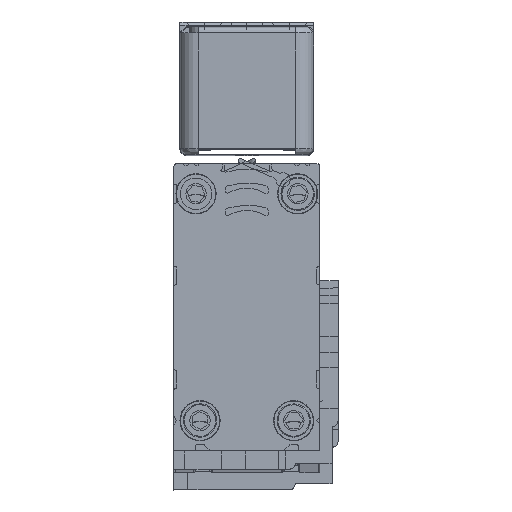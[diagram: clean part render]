
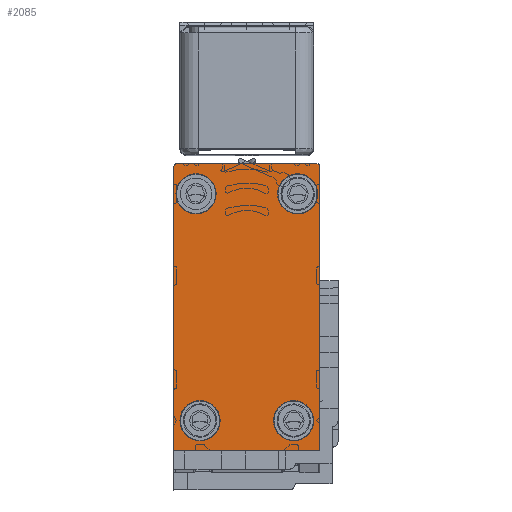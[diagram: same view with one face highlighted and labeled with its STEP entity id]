
A CAD part, top view. The second image highlights one B-rep face of the part: STEP entity #2085.
In plain terms, the highlighted planar face has unit normal (0, 0, 1).
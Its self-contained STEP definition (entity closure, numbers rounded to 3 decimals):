
#59 = CARTESIAN_POINT ( 'NONE',  ( -11.063, 21.401, 3185. ) ) ;
#231 = DIRECTION ( 'NONE',  ( -1., 0., 0. ) ) ;
#590 = LINE ( 'NONE', #10401, #5728 ) ;
#686 = ORIENTED_EDGE ( 'NONE', *, *, #11966, .T. ) ;
#855 = ORIENTED_EDGE ( 'NONE', *, *, #23147, .T. ) ;
#987 = ORIENTED_EDGE ( 'NONE', *, *, #26413, .T. ) ;
#1560 = AXIS2_PLACEMENT_3D ( 'NONE', #16345, #3266, #18507 ) ;
#1562 = LINE ( 'NONE', #21415, #18304 ) ;
#1752 = CARTESIAN_POINT ( 'NONE',  ( -0.967, 21.401, 3185. ) ) ;
#1890 = DIRECTION ( 'NONE',  ( 0., 1., 0. ) ) ;
#2016 = CARTESIAN_POINT ( 'NONE',  ( -18.014, -20.888, 3185. ) ) ;
#2085 = ADVANCED_FACE ( 'NONE', ( #9945, #21479, #22180, #10660, #4098 ), #2370, .T. ) ;
#2231 = ORIENTED_EDGE ( 'NONE', *, *, #15478, .T. ) ;
#2255 = DIRECTION ( 'NONE',  ( 0., 0., -1. ) ) ;
#2370 = PLANE ( 'NONE',  #15356 ) ;
#2633 = CIRCLE ( 'NONE', #15399, 3.302 ) ;
#2947 = VERTEX_POINT ( 'NONE', #20592 ) ;
#3266 = DIRECTION ( 'NONE',  ( 0., 0., -1. ) ) ;
#3293 = VERTEX_POINT ( 'NONE', #25496 ) ;
#3346 = CARTESIAN_POINT ( 'NONE',  ( -13.714, -15.887, 3185. ) ) ;
#3473 = ORIENTED_EDGE ( 'NONE', *, *, #22251, .T. ) ;
#3500 = EDGE_LOOP ( 'NONE', ( #855, #21316 ) ) ;
#3716 = LINE ( 'NONE', #17185, #9588 ) ;
#3778 = EDGE_CURVE ( 'NONE', #15417, #17066, #590, .T. ) ;
#3880 = DIRECTION ( 'NONE',  ( 0., -1., 0. ) ) ;
#4098 = FACE_OUTER_BOUND ( 'NONE', #17569, .T. ) ;
#4222 = DIRECTION ( 'NONE',  ( 0., 0., -1. ) ) ;
#4882 = CARTESIAN_POINT ( 'NONE',  ( 5.485, 25.871, 3185. ) ) ;
#4933 = AXIS2_PLACEMENT_3D ( 'NONE', #15340, #2255, #17528 ) ;
#5085 = CARTESIAN_POINT ( 'NONE',  ( -13.714, -15.887, 3185. ) ) ;
#5121 = CARTESIAN_POINT ( 'NONE',  ( -17.514, 25.871, 3185. ) ) ;
#5460 = CARTESIAN_POINT ( 'NONE',  ( -17.017, -15.887, 3185. ) ) ;
#5540 = DIRECTION ( 'NONE',  ( -1., 0., 0. ) ) ;
#5728 = VECTOR ( 'NONE', #12583, 1000. ) ;
#5809 = AXIS2_PLACEMENT_3D ( 'NONE', #17327, #4222, #19495 ) ;
#5839 = CARTESIAN_POINT ( 'NONE',  ( -18.014, 25.871, 3185. ) ) ;
#6264 = VERTEX_POINT ( 'NONE', #26672 ) ;
#6615 = VERTEX_POINT ( 'NONE', #24902 ) ;
#6644 = CIRCLE ( 'NONE', #1560, 3.302 ) ;
#7040 = ORIENTED_EDGE ( 'NONE', *, *, #24590, .T. ) ;
#7070 = DIRECTION ( 'NONE',  ( 0., 1., 0. ) ) ;
#7268 = EDGE_CURVE ( 'NONE', #23527, #3293, #20293, .T. ) ;
#7281 = DIRECTION ( 'NONE',  ( -1., 0., 0. ) ) ;
#7317 = DIRECTION ( 'NONE',  ( 0., 1., 0. ) ) ;
#7475 = CARTESIAN_POINT ( 'NONE',  ( 1.676, -15.887, 3185. ) ) ;
#7665 = CIRCLE ( 'NONE', #4933, 3.302 ) ;
#7994 = VERTEX_POINT ( 'NONE', #1752 ) ;
#8421 = DIRECTION ( 'NONE',  ( 0., 1., 0. ) ) ;
#8832 = DIRECTION ( 'NONE',  ( 0., 0., -1. ) ) ;
#9588 = VECTOR ( 'NONE', #1890, 1000. ) ;
#9706 = DIRECTION ( 'NONE',  ( -1., 0., 0. ) ) ;
#9811 = CIRCLE ( 'NONE', #25256, 3.302 ) ;
#9945 = FACE_BOUND ( 'NONE', #3500, .T. ) ;
#10401 = CARTESIAN_POINT ( 'NONE',  ( 5.485, 26.371, 3185. ) ) ;
#10429 = EDGE_LOOP ( 'NONE', ( #19784, #3473 ) ) ;
#10660 = FACE_BOUND ( 'NONE', #23988, .T. ) ;
#10844 = DIRECTION ( 'NONE',  ( 0., 0., -1. ) ) ;
#10994 = VERTEX_POINT ( 'NONE', #5839 ) ;
#11136 = VERTEX_POINT ( 'NONE', #2016 ) ;
#11320 = EDGE_CURVE ( 'NONE', #6615, #15417, #25858, .T. ) ;
#11966 = EDGE_CURVE ( 'NONE', #10994, #11136, #28190, .T. ) ;
#12583 = DIRECTION ( 'NONE',  ( -1., 0., 0. ) ) ;
#13390 = DIRECTION ( 'NONE',  ( 0., 0., 1. ) ) ;
#13725 = AXIS2_PLACEMENT_3D ( 'NONE', #5121, #20372, #7317 ) ;
#13900 = CIRCLE ( 'NONE', #15785, 3.302 ) ;
#14085 = EDGE_CURVE ( 'NONE', #18859, #14529, #14305, .T. ) ;
#14101 = VERTEX_POINT ( 'NONE', #26959 ) ;
#14305 = CIRCLE ( 'NONE', #18845, 3.302 ) ;
#14436 = AXIS2_PLACEMENT_3D ( 'NONE', #5085, #20333, #7281 ) ;
#14529 = VERTEX_POINT ( 'NONE', #26873 ) ;
#15104 = CARTESIAN_POINT ( 'NONE',  ( 5.637, 21.401, 3185. ) ) ;
#15340 = CARTESIAN_POINT ( 'NONE',  ( 1.676, -15.887, 3185. ) ) ;
#15356 = AXIS2_PLACEMENT_3D ( 'NONE', #26321, #13390, #231 ) ;
#15399 = AXIS2_PLACEMENT_3D ( 'NONE', #21842, #8832, #24008 ) ;
#15417 = VERTEX_POINT ( 'NONE', #19059 ) ;
#15478 = EDGE_CURVE ( 'NONE', #6264, #6615, #1562, .T. ) ;
#15529 = EDGE_CURVE ( 'NONE', #21488, #14101, #9811, .T. ) ;
#15785 = AXIS2_PLACEMENT_3D ( 'NONE', #3346, #18593, #5540 ) ;
#15972 = VECTOR ( 'NONE', #21994, 1000. ) ;
#16014 = ORIENTED_EDGE ( 'NONE', *, *, #11320, .T. ) ;
#16345 = CARTESIAN_POINT ( 'NONE',  ( 2.335, 21.401, 3185. ) ) ;
#16643 = LINE ( 'NONE', #19727, #15972 ) ;
#17066 = VERTEX_POINT ( 'NONE', #27118 ) ;
#17185 = CARTESIAN_POINT ( 'NONE',  ( 5.984, -20.888, 3185. ) ) ;
#17327 = CARTESIAN_POINT ( 'NONE',  ( -14.365, 21.401, 3185. ) ) ;
#17518 = EDGE_CURVE ( 'NONE', #10994, #17066, #27287, .T. ) ;
#17528 = DIRECTION ( 'NONE',  ( -1., 0., 0. ) ) ;
#17569 = EDGE_LOOP ( 'NONE', ( #987, #2231, #16014, #25361, #23528, #686, #22911 ) ) ;
#18304 = VECTOR ( 'NONE', #8421, 1000. ) ;
#18507 = DIRECTION ( 'NONE',  ( -1., 0., 0. ) ) ;
#18593 = DIRECTION ( 'NONE',  ( 0., 0., -1. ) ) ;
#18845 = AXIS2_PLACEMENT_3D ( 'NONE', #7475, #22712, #9706 ) ;
#18859 = VERTEX_POINT ( 'NONE', #26315 ) ;
#19059 = CARTESIAN_POINT ( 'NONE',  ( 5.485, 26.371, 3185. ) ) ;
#19495 = DIRECTION ( 'NONE',  ( -1., 0., 0. ) ) ;
#19727 = CARTESIAN_POINT ( 'NONE',  ( -18.014, -20.888, 3185. ) ) ;
#19784 = ORIENTED_EDGE ( 'NONE', *, *, #20783, .T. ) ;
#20138 = DIRECTION ( 'NONE',  ( 0., 0., 1. ) ) ;
#20238 = ORIENTED_EDGE ( 'NONE', *, *, #14085, .T. ) ;
#20293 = CIRCLE ( 'NONE', #14436, 3.302 ) ;
#20333 = DIRECTION ( 'NONE',  ( 0., 0., -1. ) ) ;
#20372 = DIRECTION ( 'NONE',  ( 0., 0., -1. ) ) ;
#20592 = CARTESIAN_POINT ( 'NONE',  ( 5.984, -20.888, 3185. ) ) ;
#20783 = EDGE_CURVE ( 'NONE', #7994, #22721, #2633, .T. ) ;
#21143 = EDGE_CURVE ( 'NONE', #3293, #23527, #13900, .T. ) ;
#21316 = ORIENTED_EDGE ( 'NONE', *, *, #15529, .T. ) ;
#21415 = CARTESIAN_POINT ( 'NONE',  ( 5.984, 7.11, 3185. ) ) ;
#21479 = FACE_BOUND ( 'NONE', #10429, .T. ) ;
#21488 = VERTEX_POINT ( 'NONE', #59 ) ;
#21564 = EDGE_CURVE ( 'NONE', #11136, #2947, #16643, .T. ) ;
#21842 = CARTESIAN_POINT ( 'NONE',  ( 2.335, 21.401, 3185. ) ) ;
#21994 = DIRECTION ( 'NONE',  ( 1., 0., 0. ) ) ;
#22180 = FACE_BOUND ( 'NONE', #25615, .T. ) ;
#22251 = EDGE_CURVE ( 'NONE', #22721, #7994, #6644, .T. ) ;
#22712 = DIRECTION ( 'NONE',  ( 0., 0., -1. ) ) ;
#22721 = VERTEX_POINT ( 'NONE', #15104 ) ;
#22911 = ORIENTED_EDGE ( 'NONE', *, *, #21564, .T. ) ;
#22992 = ORIENTED_EDGE ( 'NONE', *, *, #21143, .T. ) ;
#23147 = EDGE_CURVE ( 'NONE', #14101, #21488, #27683, .T. ) ;
#23527 = VERTEX_POINT ( 'NONE', #5460 ) ;
#23528 = ORIENTED_EDGE ( 'NONE', *, *, #17518, .F. ) ;
#23791 = CARTESIAN_POINT ( 'NONE',  ( -14.365, 21.401, 3185. ) ) ;
#23988 = EDGE_LOOP ( 'NONE', ( #25197, #22992 ) ) ;
#24008 = DIRECTION ( 'NONE',  ( -1., 0., 0. ) ) ;
#24590 = EDGE_CURVE ( 'NONE', #14529, #18859, #7665, .T. ) ;
#24902 = CARTESIAN_POINT ( 'NONE',  ( 5.984, 25.871, 3185. ) ) ;
#25197 = ORIENTED_EDGE ( 'NONE', *, *, #7268, .T. ) ;
#25256 = AXIS2_PLACEMENT_3D ( 'NONE', #23791, #10844, #25968 ) ;
#25361 = ORIENTED_EDGE ( 'NONE', *, *, #3778, .T. ) ;
#25496 = CARTESIAN_POINT ( 'NONE',  ( -10.412, -15.887, 3185. ) ) ;
#25615 = EDGE_LOOP ( 'NONE', ( #20238, #7040 ) ) ;
#25858 = CIRCLE ( 'NONE', #27676, 0.5 ) ;
#25968 = DIRECTION ( 'NONE',  ( -1., 0., 0. ) ) ;
#26315 = CARTESIAN_POINT ( 'NONE',  ( -1.626, -15.887, 3185. ) ) ;
#26321 = CARTESIAN_POINT ( 'NONE',  ( -18.014, -20.888, 3185. ) ) ;
#26413 = EDGE_CURVE ( 'NONE', #2947, #6264, #3716, .T. ) ;
#26672 = CARTESIAN_POINT ( 'NONE',  ( 5.984, 7.11, 3185. ) ) ;
#26873 = CARTESIAN_POINT ( 'NONE',  ( 4.978, -15.887, 3185. ) ) ;
#26959 = CARTESIAN_POINT ( 'NONE',  ( -17.667, 21.401, 3185. ) ) ;
#27118 = CARTESIAN_POINT ( 'NONE',  ( -17.514, 26.371, 3185. ) ) ;
#27287 = CIRCLE ( 'NONE', #13725, 0.5 ) ;
#27507 = VECTOR ( 'NONE', #3880, 1000. ) ;
#27676 = AXIS2_PLACEMENT_3D ( 'NONE', #4882, #20138, #7070 ) ;
#27683 = CIRCLE ( 'NONE', #5809, 3.302 ) ;
#27856 = CARTESIAN_POINT ( 'NONE',  ( -18.014, 25.871, 3185. ) ) ;
#28190 = LINE ( 'NONE', #27856, #27507 ) ;
